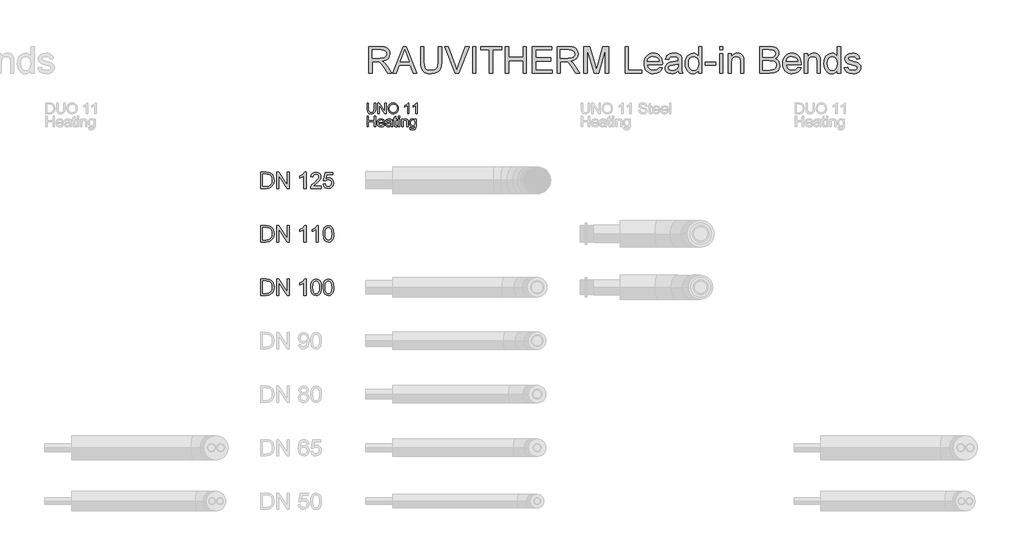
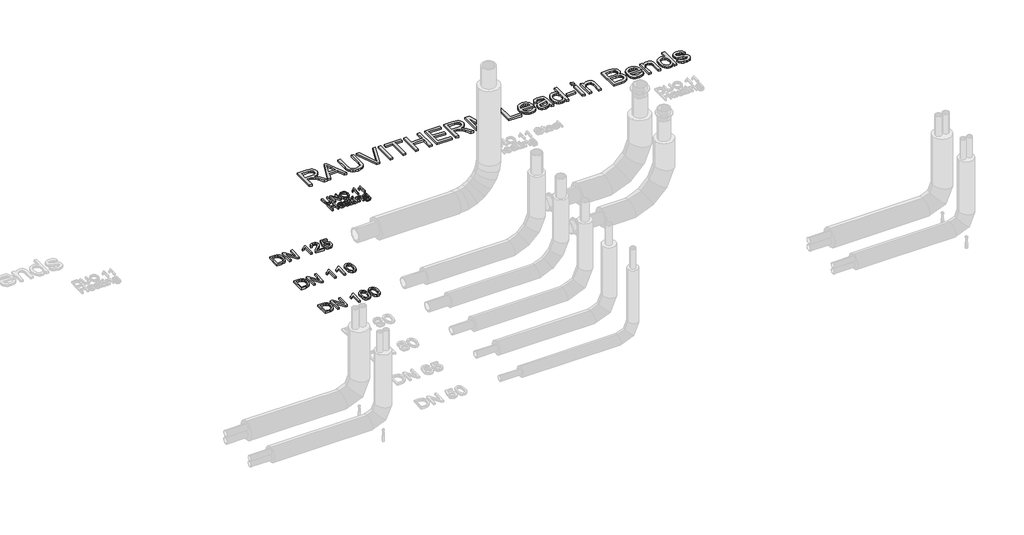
# One storey, part 42 of 44: 5 proxies.
"""IFC4 building model written with IfcOpenShell, lengths in millimetres."""

from ifc_helpers import new_model, si_unit, origin, origin_with_axes, place, context, project, spatial, polyline, outline, extrude, element, save

model = new_model("IFC4")

# Units and contexts
model_context = context("Model", 3, world=origin())
ifc_project = project(units=[si_unit("LENGTHUNIT", "METRE", prefix="MILLI")], contexts=[model_context])

# Site, building, storey
site = spatial("IfcSite", under=ifc_project)
building = spatial("IfcBuilding", under=site)
storey = spatial("IfcBuildingStorey", under=building, Name="REHAU Starting view", Elevation=0.0)

# Proxies
placement = place(None, origin())
element("IfcBuildingElementProxy", 1, Name="100", ObjectType="100", at=placement, inside=storey, context=model_context, shape_type="SweptSolid", body=[
    extrude(outline(polyline([(41076.9118625, 6222.431128), (41089.4689012, 6222.431128), (41089.4689012, 6164.477451), (41086.0598614, 6140.4547567), (41073.7726028, 6125.9847316), (41063.5086951, 6121.8000739), (41050.4734097, 6120.405188), (41027.529836, 6125.2612303), (41019.8901532, 6131.2055902), (41014.8011189, 6139.3265853), (41010.9874089, 6164.477451), (41010.9874089, 6222.431128), (41023.5444477, 6222.431128), (41023.5444477, 6164.9189094), (41026.0215198, 6145.7767829), (41034.5318566, 6136.2976902), (41049.2961874, 6132.9622268), (41062.067824, 6134.6115644), (41070.5597667, 6139.5595772), (41075.3238385, 6149.1980855), (41076.9118625, 6164.9189094), (41076.9118625, 6222.431128)])), origin_with_axes(), (0.0, 0.0, 1.0), 20.0),
    extrude(outline(polyline([(41111.4437191, 6121.9748178), (41111.4437191, 6222.431128), (41124.8836746, 6222.431128), (41177.3681726, 6142.8459897), (41177.3681726, 6222.431128), (41189.9252114, 6222.431128), (41189.9252114, 6121.9748178), (41176.4852558, 6121.9748178), (41124.0007578, 6201.5844816), (41124.0007578, 6121.9748178), (41111.4437191, 6121.9748178)])), origin_with_axes(), (0.0, 0.0, 1.0), 20.0),
    extrude(outline(polyline([(41207.1911397, 6170.8785977), (41210.5388658, 6193.0925389), (41220.5820443, 6209.8986147), (41235.9165921, 6220.4752221), (41255.1384264, 6224.0007578), (41268.3147332, 6222.3452889), (41280.1298766, 6217.3788819), (41289.9400631, 6209.4510249), (41297.1014993, 6198.9112058), (41301.479295, 6186.2683279), (41302.9385603, 6172.0312947), (41301.402653, 6157.6041891), (41296.794931, 6144.7835015), (41289.369846, 6134.2252883), (41279.3818499, 6126.5856055), (41267.667874, 6121.9502924), (41255.06485, 6120.405188), (41241.6862081, 6122.1127736), (41229.8036197, 6127.2355304), (41220.0179586, 6135.3105402), (41212.9300988, 6145.8748848), (41207.1911397, 6170.8785977)]), holes=[polyline([(41219.7481785, 6170.7559704), (41222.2589731, 6155.0412778), (41229.7913569, 6143.0667189), (41241.1129253, 6135.4883498), (41254.9912736, 6132.9622268), (41269.071957, 6135.5128753), (41280.4119195, 6143.1648208), (41287.889121, 6155.5072617), (41290.3815215, 6172.1293965), (41286.1140904, 6192.8534156), (41273.6428907, 6206.575414), (41255.2120028, 6211.4437191), (41241.7046022, 6209.0984714), (41230.2205526, 6202.0627282), (41222.366272, 6189.5455433), (41219.7481785, 6170.7559704)])]), origin_with_axes(), (0.0, 0.0, 1.0), 20.0),
    extrude(outline(polyline([(41401.8252406, 6121.9748178), (41389.2682018, 6121.9748178), (41389.2682018, 6200.2601064), (41377.3733507, 6191.7865578), (41364.1541243, 6185.4467247), (41364.1541243, 6197.3170505), (41382.5604868, 6209.0647488), (41393.7318367, 6222.431128), (41401.8252406, 6222.431128), (41401.8252406, 6121.9748178)])), origin_with_axes(), (0.0, 0.0, 1.0), 20.0),
    extrude(outline(polyline([(41478.7371031, 6121.9748178), (41466.1800643, 6121.9748178), (41466.1800643, 6200.2601064), (41454.2852131, 6191.7865578), (41441.0659868, 6185.4467247), (41441.0659868, 6197.3170505), (41459.4723492, 6209.0647488), (41470.6436992, 6222.431128), (41478.7371031, 6222.431128), (41478.7371031, 6121.9748178)])), origin_with_axes(), (0.0, 0.0, 1.0), 20.0),
    extrude(outline(polyline([(41010.9874089, 6000.0), (41010.9874089, 6100.4563101), (41023.5444477, 6100.4563101), (41023.5444477, 6059.6459342), (41076.9118625, 6059.6459342), (41076.9118625, 6100.4563101), (41089.4689012, 6100.4563101), (41089.4689012, 6000.0), (41076.9118625, 6000.0), (41076.9118625, 6047.0888954), (41023.5444477, 6047.0888954), (41023.5444477, 6000.0), (41010.9874089, 6000.0)])), origin_with_axes(), (0.0, 0.0, 1.0), 20.0),
    extrude(outline(polyline([(41161.5247213, 6021.9748178), (41173.8365055, 6020.405188), (41169.4004617, 6011.1284304), (41162.321799, 6004.1938547), (41152.7599328, 5999.8712413), (41140.8742787, 5998.4303702), (41126.1406048, 6000.9166393), (41114.803708, 6008.3754468), (41107.5748268, 6020.3224146), (41105.1651997, 6036.2731647), (41107.5993522, 6052.7604095), (41114.9018098, 6065.0905877), (41126.0854225, 6072.7793214), (41140.1630402, 6075.3422326), (41153.8022651, 6072.7854527), (41164.7007692, 6065.1151131), (41171.846877, 6052.8094604), (41174.2289129, 6036.3467411), (41174.1553365, 6032.9622268), (41117.7222385, 6032.9622268), (41119.8958079, 6023.5628418), (41124.9449883, 6016.6527916), (41132.2321175, 6012.4037546), (41141.1195333, 6010.9874089), (41153.4313175, 6013.6116338), (41161.5247213, 6021.9748178)]), holes=[polyline([(41117.7222385, 6045.5192655), (41161.6718741, 6045.5192655), (41156.6441535, 6056.8990819), (41149.3233018, 6061.3136659), (41140.1139892, 6062.7851938), (41124.6506827, 6058.088567), (41119.7854433, 6052.5979283), (41117.7222385, 6045.5192655)])]), origin_with_axes(), (0.0, 0.0, 1.0), 20.0),
    extrude(outline(polyline([(41233.8748471, 6009.4177791), (41221.697953, 6000.9074423), (41208.2457347, 5998.4303702), (41197.7519008, 5999.9202922), (41190.0110505, 6004.3900585), (41185.2377816, 6011.1774813), (41183.646692, 6019.6203731), (41186.0501877, 6029.5531869), (41192.3654953, 6036.7636741), (41201.157875, 6040.8839524), (41212.0226566, 6042.7724133), (41233.8012707, 6047.0888954), (41233.8748471, 6049.8847985), (41230.4167563, 6059.1554248), (41216.5353424, 6062.7851938), (41203.8311508, 6060.3694354), (41197.7733606, 6051.7977849), (41185.2163218, 6053.3674148), (41190.6487126, 6065.6301479), (41201.5870706, 6072.8161096), (41218.1540231, 6075.3422326), (41233.372075, 6073.1104152), (41241.968251, 6067.5063461), (41245.8187492, 6058.9837466), (41246.4318858, 6047.9963376), (41246.4318858, 6032.3736156), (41247.069548, 6010.5582133), (41249.5711455, 6000.0), (41237.0141068, 6000.0), (41233.8748471, 6009.4177791)]), holes=[polyline([(41233.8748471, 6034.5318566), (41213.6168119, 6030.6813584), (41202.8133439, 6028.6457447), (41197.9205134, 6025.3348067), (41196.2037308, 6020.5032899), (41199.9438644, 6013.7097357), (41210.9190106, 6010.9874089), (41223.6232021, 6013.9917785), (41231.8147079, 6021.2635793), (41233.8012707, 6030.975664), (41233.8748471, 6034.5318566)])]), origin_with_axes(), (0.0, 0.0, 1.0), 20.0),
    extrude(outline(polyline([(41290.3815215, 6010.4723741), (41291.9511514, 5999.632118), (41282.5578978, 5998.4303702), (41272.0364727, 6000.5150348), (41266.7880229, 6005.9842138), (41265.267444, 6020.2335097), (41265.267444, 6061.215564), (41255.8496649, 6061.215564), (41255.8496649, 6073.7726028), (41265.267444, 6073.7726028), (41265.267444, 6091.7007187), (41277.8244828, 6099.082884), (41277.8244828, 6073.7726028), (41290.3815215, 6073.7726028), (41290.3815215, 6061.215564), (41277.8244828, 6061.215564), (41277.8244828, 6020.6013917), (41278.4866703, 6014.1266686), (41280.6326487, 6011.8335375), (41284.9123425, 6010.9874089), (41290.3815215, 6010.4723741)])), origin_with_axes(), (0.0, 0.0, 1.0), 20.0),
    extrude(outline(polyline([(41302.9385603, 6087.8992714), (41302.9385603, 6100.4563101), (41315.4955991, 6100.4563101), (41315.4955991, 6087.8992714), (41302.9385603, 6087.8992714)])), origin_with_axes(), (0.0, 0.0, 1.0), 20.0),
    extrude(outline(polyline([(41302.9385603, 6000.0), (41302.9385603, 6073.7726028), (41315.4955991, 6073.7726028), (41315.4955991, 6000.0), (41302.9385603, 6000.0)])), origin_with_axes(), (0.0, 0.0, 1.0), 20.0),
    extrude(outline(polyline([(41334.3311572, 6000.0), (41334.3311572, 6073.7726028), (41346.888196, 6073.7726028), (41346.888196, 6063.4719069), (41356.4899161, 6072.3746512), (41369.5987778, 6075.3422326), (41381.4568408, 6072.9509996), (41389.5502447, 6066.6724803), (41393.3149038, 6057.4386422), (41393.9770914, 6045.2985363), (41393.9770914, 6000.0), (41381.4200526, 6000.0), (41381.4200526, 6043.6062792), (41379.9730501, 6054.7163154), (41374.8594904, 6060.5901646), (41366.2387889, 6062.7851938), (41352.6148924, 6057.8555751), (41348.3198701, 6050.712533), (41346.888196, 6039.1426443), (41346.888196, 6000.0), (41334.3311572, 6000.0)])), origin_with_axes(), (0.0, 0.0, 1.0), 20.0),
    extrude(outline(polyline([(41408.10376, 5993.7214806), (41420.6607988, 5992.1518508), (41424.7320262, 5985.5299749), (41436.9211829, 5982.7340717), (41449.7725273, 5985.8978569), (41455.9038939, 5994.7760757), (41456.7622852, 6009.4177791), (41447.9208546, 6002.3544448), (41437.1419121, 6000.0), (41424.1955316, 6002.7407209), (41414.5416949, 6010.9628835), (41408.5360213, 6023.0171502), (41406.5341301, 6037.2541834), (41410.127111, 6056.7151409), (41420.5259087, 6070.4861903), (41436.5287755, 6075.3422326), (41447.7307822, 6072.5953804), (41456.7622852, 6064.3548237), (41456.7622852, 6073.7726028), (41469.319324, 6073.7726028), (41469.319324, 6010.0799667), (41465.8857587, 5985.6893904), (41455.0087144, 5974.3463622), (41436.6759283, 5970.1770329), (41424.9926092, 5971.6454952), (41415.7924937, 5976.0508821), (41409.8910533, 5983.4054563), (41408.10376, 5993.7214806)]), holes=[polyline([(41419.0911689, 6038.1125747), (41420.4308725, 6026.5948026), (41424.4499833, 6018.6761426), (41430.4924451, 6014.0868147), (41437.9022016, 6012.5570388), (41445.2567758, 6014.0776177), (41451.3298944, 6018.6393544), (41455.4041875, 6026.4568468), (41456.7622852, 6037.7446927), (41455.3643336, 6048.6309341), (41451.1704789, 6056.4698863), (41445.0084555, 6061.2063669), (41437.7059979, 6062.7851938), (41430.5353646, 6061.2308924), (41424.5235597, 6056.5679881), (41420.4492666, 6048.8455319), (41419.0911689, 6038.1125747)])]), origin_with_axes(), (0.0, 0.0, 1.0), 20.0),
])
element("IfcBuildingElementProxy", 2, Name="150", ObjectType="150", at=placement, inside=storey, context=model_context, shape_type="SweptSolid", body=[
    extrude(outline(polyline([(40016.4811134, 4425.0), (40016.4811134, 4575.6844652), (40068.4628393, 4575.6844652), (40095.3550131, 4573.5139615), (40117.5015093, 4562.735019), (40127.9217668, 4551.2571007), (40135.343786, 4536.9832793), (40139.7859611, 4520.1894663), (40141.2666861, 4501.151573), (40137.2567724, 4470.7461261), (40126.9560765, 4448.8019651), (40113.1972899, 4435.135149), (40095.1894663, 4427.575174), (40070.9644369, 4425.0), (40016.4811134, 4425.0)]), holes=[polyline([(40035.3166715, 4443.8355582), (40068.6467803, 4443.8355582), (40092.8902038, 4446.5578849), (40106.8697196, 4454.2466186), (40118.3292437, 4472.9534181), (40122.431128, 4501.4458786), (40120.4215726, 4521.9736939), (40114.3929064, 4537.1304321), (40105.4855636, 4547.5414926), (40094.8399784, 4553.8322747), (40068.1317455, 4556.8489071), (40035.3166715, 4556.8489071), (40035.3166715, 4443.8355582)])]), origin_with_axes(), (0.0, 0.0, 1.0), 20.0),
    extrude(outline(polyline([(40167.1655786, 4425.0), (40167.1655786, 4575.6844652), (40187.3255119, 4575.6844652), (40266.0522589, 4456.3067578), (40266.0522589, 4575.6844652), (40284.8878171, 4575.6844652), (40284.8878171, 4425.0), (40264.7278837, 4425.0), (40186.0011368, 4544.4144956), (40186.0011368, 4425.0), (40167.1655786, 4425.0)])), origin_with_axes(), (0.0, 0.0, 1.0), 20.0),
    extrude(outline(polyline([(40440.2811718, 4425.0), (40421.4456137, 4425.0), (40421.4456137, 4542.4279329), (40403.6033369, 4529.7176099), (40383.7744974, 4520.2078604), (40383.7744974, 4538.0133489), (40411.3840411, 4555.6348965), (40428.141066, 4575.6844652), (40440.2811718, 4575.6844652), (40440.2811718, 4425.0)])), origin_with_axes(), (0.0, 0.0, 1.0), 20.0),
    extrude(outline(polyline([(40485.0156224, 4499.128222), (40486.3997784, 4523.2474853), (40490.5522465, 4542.4831152), (40497.4316398, 4557.1294171), (40506.9965717, 4567.4806967), (40519.31602, 4573.6335231), (40534.4589626, 4575.6844652), (40556.4583059, 4570.8284229), (40571.6518323, 4556.830513), (40580.4810002, 4534.5368641), (40583.9023027, 4499.128222), (40582.5319423, 4475.1469145), (40578.420861, 4455.9572699), (40571.5828544, 4441.2971724), (40562.0317181, 4430.904506), (40549.6846787, 4424.7102929), (40534.4589626, 4422.6455552), (40514.8876404, 4426.2324047), (40500.0252078, 4436.992953), (40488.7680188, 4462.4779783), (40485.0156224, 4499.128222)]), holes=[polyline([(40503.8511806, 4499.1650102), (40506.0584726, 4469.536714), (40512.6803485, 4452.3888145), (40522.5395859, 4444.2080387), (40534.4589626, 4441.4811134), (40546.3783392, 4444.2172357), (40556.2375767, 4452.4256027), (40562.8594526, 4469.5826993), (40565.0667446, 4499.1650102), (40562.933029, 4528.1265203), (40556.5318823, 4545.407777), (40546.6910389, 4553.9886246), (40534.2382334, 4556.8489071), (40522.4476155, 4554.3289154), (40512.9746541, 4546.7689404), (40506.132049, 4528.4116288), (40503.8511806, 4499.1650102)])]), origin_with_axes(), (0.0, 0.0, 1.0), 20.0),
    extrude(outline(polyline([(40600.3834161, 4499.128222), (40601.7675721, 4523.2474853), (40605.9200402, 4542.4831152), (40612.7994335, 4557.1294171), (40622.3643653, 4567.4806967), (40634.6838137, 4573.6335231), (40649.8267563, 4575.6844652), (40671.8260996, 4570.8284229), (40687.019626, 4556.830513), (40695.8487939, 4534.5368641), (40699.2700964, 4499.128222), (40697.899736, 4475.1469145), (40693.7886547, 4455.9572699), (40686.9506481, 4441.2971724), (40677.3995118, 4430.904506), (40665.0524724, 4424.7102929), (40649.8267563, 4422.6455552), (40630.2554341, 4426.2324047), (40615.3930015, 4436.992953), (40604.1358125, 4462.4779783), (40600.3834161, 4499.128222)]), holes=[polyline([(40619.2189743, 4499.1650102), (40621.4262663, 4469.536714), (40628.0481422, 4452.3888145), (40637.9073796, 4444.2080387), (40649.8267563, 4441.4811134), (40661.7461329, 4444.2172357), (40671.6053704, 4452.4256027), (40678.2272463, 4469.5826993), (40680.4345383, 4499.1650102), (40678.3008227, 4528.1265203), (40671.899676, 4545.407777), (40662.0588326, 4553.9886246), (40649.6060271, 4556.8489071), (40637.8154091, 4554.3289154), (40628.3424478, 4546.7689404), (40621.4998427, 4528.4116288), (40619.2189743, 4499.1650102)])]), origin_with_axes(), (0.0, 0.0, 1.0), 20.0),
])
element("IfcBuildingElementProxy", 3, Name="150", ObjectType="150", at=placement, inside=storey, context=model_context, shape_type="SweptSolid", body=[
    extrude(outline(polyline([(40016.4811134, 4925.0), (40016.4811134, 5075.6844652), (40068.4628393, 5075.6844652), (40095.3550131, 5073.5139615), (40117.5015093, 5062.735019), (40127.9217668, 5051.2571007), (40135.343786, 5036.9832793), (40139.7859611, 5020.1894663), (40141.2666861, 5001.151573), (40137.2567724, 4970.7461261), (40126.9560765, 4948.8019651), (40113.1972899, 4935.135149), (40095.1894663, 4927.575174), (40070.9644369, 4925.0), (40016.4811134, 4925.0)]), holes=[polyline([(40035.3166715, 4943.8355582), (40068.6467803, 4943.8355582), (40092.8902038, 4946.5578849), (40106.8697196, 4954.2466186), (40118.3292437, 4972.9534181), (40122.431128, 5001.4458786), (40120.4215726, 5021.9736939), (40114.3929064, 5037.1304321), (40105.4855636, 5047.5414926), (40094.8399784, 5053.8322747), (40068.1317455, 5056.8489071), (40035.3166715, 5056.8489071), (40035.3166715, 4943.8355582)])]), origin_with_axes(), (0.0, 0.0, 1.0), 20.0),
    extrude(outline(polyline([(40167.1655786, 4925.0), (40167.1655786, 5075.6844652), (40187.3255119, 5075.6844652), (40266.0522589, 4956.3067578), (40266.0522589, 5075.6844652), (40284.8878171, 5075.6844652), (40284.8878171, 4925.0), (40264.7278837, 4925.0), (40186.0011368, 5044.4144956), (40186.0011368, 4925.0), (40167.1655786, 4925.0)])), origin_with_axes(), (0.0, 0.0, 1.0), 20.0),
    extrude(outline(polyline([(40440.2811718, 4925.0), (40421.4456137, 4925.0), (40421.4456137, 5042.4279329), (40403.6033369, 5029.7176099), (40383.7744974, 5020.2078604), (40383.7744974, 5038.0133489), (40411.3840411, 5055.6348965), (40428.141066, 5075.6844652), (40440.2811718, 5075.6844652), (40440.2811718, 4925.0)])), origin_with_axes(), (0.0, 0.0, 1.0), 20.0),
    extrude(outline(polyline([(40555.6489655, 4925.0), (40536.8134074, 4925.0), (40536.8134074, 5042.4279329), (40518.9711306, 5029.7176099), (40499.1422911, 5020.2078604), (40499.1422911, 5038.0133489), (40526.7518348, 5055.6348965), (40543.5088597, 5075.6844652), (40555.6489655, 5075.6844652), (40555.6489655, 4925.0)])), origin_with_axes(), (0.0, 0.0, 1.0), 20.0),
    extrude(outline(polyline([(40600.3834161, 4999.128222), (40601.7675721, 5023.2474853), (40605.9200402, 5042.4831152), (40612.7994335, 5057.1294171), (40622.3643653, 5067.4806967), (40634.6838137, 5073.6335231), (40649.8267563, 5075.6844652), (40671.8260996, 5070.8284229), (40687.019626, 5056.830513), (40695.8487939, 5034.5368641), (40699.2700964, 4999.128222), (40697.899736, 4975.1469145), (40693.7886547, 4955.9572699), (40686.9506481, 4941.2971724), (40677.3995118, 4930.904506), (40665.0524724, 4924.7102929), (40649.8267563, 4922.6455552), (40630.2554341, 4926.2324047), (40615.3930015, 4936.992953), (40604.1358125, 4962.4779783), (40600.3834161, 4999.128222)]), holes=[polyline([(40619.2189743, 4999.1650102), (40621.4262663, 4969.536714), (40628.0481422, 4952.3888145), (40637.9073796, 4944.2080387), (40649.8267563, 4941.4811134), (40661.7461329, 4944.2172357), (40671.6053704, 4952.4256027), (40678.2272463, 4969.5826993), (40680.4345383, 4999.1650102), (40678.3008227, 5028.1265203), (40671.899676, 5045.407777), (40662.0588326, 5053.9886246), (40649.6060271, 5056.8489071), (40637.8154091, 5054.3289154), (40628.3424478, 5046.7689404), (40621.4998427, 5028.4116288), (40619.2189743, 4999.1650102)])]), origin_with_axes(), (0.0, 0.0, 1.0), 20.0),
])
element("IfcBuildingElementProxy", 4, Name="150", ObjectType="150", at=placement, inside=storey, context=model_context, shape_type="SweptSolid", body=[
    extrude(outline(polyline([(40016.4811134, 5425.0), (40016.4811134, 5575.6844652), (40068.4628393, 5575.6844652), (40095.3550131, 5573.5139615), (40117.5015093, 5562.735019), (40127.9217668, 5551.2571007), (40135.343786, 5536.9832793), (40139.7859611, 5520.1894663), (40141.2666861, 5501.151573), (40137.2567724, 5470.7461261), (40126.9560765, 5448.8019651), (40113.1972899, 5435.135149), (40095.1894663, 5427.575174), (40070.9644369, 5425.0), (40016.4811134, 5425.0)]), holes=[polyline([(40035.3166715, 5443.8355582), (40068.6467803, 5443.8355582), (40092.8902038, 5446.5578849), (40106.8697196, 5454.2466186), (40118.3292437, 5472.9534181), (40122.431128, 5501.4458786), (40120.4215726, 5521.9736939), (40114.3929064, 5537.1304321), (40105.4855636, 5547.5414926), (40094.8399784, 5553.8322747), (40068.1317455, 5556.8489071), (40035.3166715, 5556.8489071), (40035.3166715, 5443.8355582)])]), origin_with_axes(), (0.0, 0.0, 1.0), 20.0),
    extrude(outline(polyline([(40167.1655786, 5425.0), (40167.1655786, 5575.6844652), (40187.3255119, 5575.6844652), (40266.0522589, 5456.3067578), (40266.0522589, 5575.6844652), (40284.8878171, 5575.6844652), (40284.8878171, 5425.0), (40264.7278837, 5425.0), (40186.0011368, 5544.4144956), (40186.0011368, 5425.0), (40167.1655786, 5425.0)])), origin_with_axes(), (0.0, 0.0, 1.0), 20.0),
    extrude(outline(polyline([(40440.2811718, 5425.0), (40421.4456137, 5425.0), (40421.4456137, 5542.4279329), (40403.6033369, 5529.7176099), (40383.7744974, 5520.2078604), (40383.7744974, 5538.0133489), (40411.3840411, 5555.6348965), (40428.141066, 5575.6844652), (40440.2811718, 5575.6844652), (40440.2811718, 5425.0)])), origin_with_axes(), (0.0, 0.0, 1.0), 20.0),
    extrude(outline(polyline([(40581.547858, 5443.8355582), (40581.547858, 5425.0), (40482.6611777, 5425.0), (40484.6845286, 5437.9862344), (40496.1256587, 5457.9806209), (40519.7068946, 5479.8144173), (40552.227663, 5511.1947515), (40558.325307, 5522.0104821), (40560.3578551, 5532.5319072), (40558.4402702, 5541.9634818), (40552.6875155, 5549.8039669), (40543.844552, 5555.087672), (40532.6563408, 5556.8489071), (40520.9071096, 5555.1290587), (40511.7790376, 5549.9695138), (40505.8883271, 5541.7749423), (40503.8511806, 5530.9500146), (40485.0156224, 5533.3044594), (40489.5819577, 5551.5238152), (40499.4549908, 5564.8319464), (40514.1196868, 5572.9713355), (40533.061011, 5575.6844652), (40552.140291, 5572.6678329), (40566.7773959, 5563.6179358), (40576.0894089, 5550.0982725), (40579.1934132, 5533.6723414), (40575.8456871, 5515.8116705), (40564.7172567, 5497.3439944), (40537.7331123, 5471.5370724), (40516.0648628, 5453.4188841), (40507.5667887, 5443.8355582), (40581.547858, 5443.8355582)])), origin_with_axes(), (0.0, 0.0, 1.0), 20.0),
    extrude(outline(polyline([(40600.3834161, 5465.0255611), (40619.2189743, 5467.3800058), (40622.677065, 5456.072233), (40628.7103298, 5447.9742306), (40637.2911773, 5443.1043927), (40648.3920165, 5441.4811134), (40661.8932857, 5443.7389891), (40672.0100406, 5450.5126164), (40678.3284139, 5461.0202459), (40680.4345383, 5474.4801284), (40678.4617711, 5487.1536631), (40672.5434695, 5496.8473537), (40662.6336482, 5503.00018), (40648.6863221, 5505.0511222), (40632.1500264, 5501.7769724), (40621.5734191, 5493.2788983), (40602.7378609, 5495.6333431), (40619.2189743, 5573.3300205), (40692.2067621, 5573.3300205), (40692.2067621, 5554.4944623), (40634.4492889, 5554.4944623), (40626.3926732, 5512.9973732), (40639.8479572, 5521.1643535), (40653.9470346, 5523.8866803), (40671.5455896, 5520.511363), (40686.1551033, 5510.3854111), (40695.9913482, 5494.9527614), (40699.2700964, 5475.6573507), (40696.3178434, 5456.8217926), (40687.4610844, 5440.7085612), (40670.5017244, 5427.1613067), (40648.3184401, 5422.6455552), (40629.8185743, 5425.5472245), (40615.0803018, 5434.2522322), (40604.9773425, 5447.7489029), (40600.3834161, 5465.0255611)])), origin_with_axes(), (0.0, 0.0, 1.0), 20.0),
])
element("IfcBuildingElementProxy", 5, Name="250", ObjectType="250", at=placement, inside=storey, context=model_context, shape_type="SweptSolid", body=[
    extrude(outline(polyline([(41027.4685223, 6500.0), (41027.4685223, 6751.1407754), (41135.6871426, 6751.1407754), (41164.7728128, 6749.4469854), (41185.9336917, 6744.3656153), (41201.4000639, 6734.9846244), (41213.402214, 6720.3919719), (41221.1047433, 6702.2967763), (41223.6722531, 6682.4081559), (41219.4186175, 6657.6680918), (41206.6577108, 6637.1586705), (41185.0063225, 6622.121494), (41154.0812423, 6613.7981638), (41171.9235191, 6600.370471), (41197.3686904, 6568.0581691), (41239.2459242, 6500.0), (41202.764293, 6500.0), (41170.0841091, 6552.0553023), (41146.4783477, 6586.5135825), (41129.8930011, 6602.7923608), (41114.9631235, 6608.7704432), (41096.7529647, 6609.8740892), (41058.8611192, 6609.8740892), (41058.8611192, 6500.0), (41027.4685223, 6500.0)]), holes=[polyline([(41058.8611192, 6641.2666861), (41129.1265803, 6641.2666861), (41164.964418, 6645.7119269), (41176.7519703, 6651.4907399), (41185.3205551, 6659.9366974), (41190.5398809, 6670.153087), (41192.2796561, 6681.2431963), (41188.961054, 6696.5562843), (41179.0052475, 6708.8956596), (41161.8757421, 6717.0350487), (41137.0360432, 6719.7481785), (41058.8611192, 6719.7481785), (41058.8611192, 6641.2666861)])]), origin_with_axes(), (0.0, 0.0, 1.0), 20.0),
    extrude(outline(polyline([(41249.3626791, 6500.0), (41349.6105227, 6751.1407754), (41376.3432811, 6751.1407754), (41476.5911248, 6500.0), (41443.4204315, 6500.0), (41414.6643222, 6578.4814923), (41311.2281679, 6578.4814923), (41282.5333723, 6500.0), (41249.3626791, 6500.0)]), holes=[polyline([(41322.7551371, 6609.8740892), (41403.1986667, 6609.8740892), (41380.573924, 6671.6169507), (41362.9769019, 6719.7481785), (41347.3419171, 6677.0125533), (41322.7551371, 6609.8740892)])]), origin_with_axes(), (0.0, 0.0, 1.0), 20.0),
    extrude(outline(polyline([(41674.9408338, 6751.1407754), (41706.3334307, 6751.1407754), (41706.3334307, 6606.2565829), (41704.2027809, 6572.3271331), (41697.8108312, 6546.1998472), (41685.8699948, 6526.0429796), (41667.0926846, 6510.0247844), (41641.4329154, 6499.5631401), (41608.844702, 6496.0759254), (41576.96926, 6499.1109518), (41551.4857676, 6508.2160312), (41532.3865607, 6523.076931), (41519.663975, 6543.3794186), (41512.5132687, 6570.6103504), (41510.1297, 6606.2565829), (41510.1297, 6751.1407754), (41541.5222969, 6751.1407754), (41541.5222969, 6607.3602289), (41543.070467, 6579.1482784), (41547.7149772, 6559.5049127), (41556.1302778, 6545.9009431), (41568.9908192, 6535.8071809), (41585.7601068, 6529.5531869), (41605.9016461, 6527.4685223), (41637.8307376, 6531.5918663), (41659.0605944, 6543.9618984), (41666.0081991, 6554.1093101), (41670.970774, 6568.0581691), (41674.9408338, 6607.3602289), (41674.9408338, 6751.1407754)])), origin_with_axes(), (0.0, 0.0, 1.0), 20.0),
    extrude(outline(polyline([(41835.460011, 6500.0), (41735.5187357, 6751.1407754), (41769.1186246, 6751.1407754), (41836.011834, 6570.2041474), (41849.5621542, 6529.4305596), (41862.9285334, 6570.2041474), (41930.0056838, 6751.1407754), (41963.6055727, 6751.1407754), (41867.8949403, 6500.0), (41835.460011, 6500.0)])), origin_with_axes(), (0.0, 0.0, 1.0), 20.0),
    extrude(outline(polyline([(41996.7149523, 6500.0), (41996.7149523, 6751.1407754), (42028.1075492, 6751.1407754), (42028.1075492, 6500.0), (41996.7149523, 6500.0)])), origin_with_axes(), (0.0, 0.0, 1.0), 20.0),
    extrude(outline(polyline([(42153.6779369, 6500.0), (42153.6779369, 6719.7481785), (42071.27237, 6719.7481785), (42071.27237, 6751.1407754), (42267.4761007, 6751.1407754), (42267.4761007, 6719.7481785), (42185.0705338, 6719.7481785), (42185.0705338, 6500.0), (42153.6779369, 6500.0)])), origin_with_axes(), (0.0, 0.0, 1.0), 20.0),
    extrude(outline(polyline([(42302.7927723, 6500.0), (42302.7927723, 6751.1407754), (42334.1853692, 6751.1407754), (42334.1853692, 6649.1148354), (42467.6039061, 6649.1148354), (42467.6039061, 6751.1407754), (42498.996503, 6751.1407754), (42498.996503, 6500.0), (42467.6039061, 6500.0), (42467.6039061, 6617.7222385), (42334.1853692, 6617.7222385), (42334.1853692, 6500.0), (42302.7927723, 6500.0)])), origin_with_axes(), (0.0, 0.0, 1.0), 20.0),
    extrude(outline(polyline([(42553.9335476, 6500.0), (42553.9335476, 6751.1407754), (42734.4409799, 6751.1407754), (42734.4409799, 6719.7481785), (42585.3261445, 6719.7481785), (42585.3261445, 6645.1907608), (42726.5928307, 6645.1907608), (42726.5928307, 6613.7981638), (42585.3261445, 6613.7981638), (42585.3261445, 6531.3925969), (42738.3650545, 6531.3925969), (42738.3650545, 6500.0), (42553.9335476, 6500.0)])), origin_with_axes(), (0.0, 0.0, 1.0), 20.0),
    extrude(outline(polyline([(42785.4539499, 6500.0), (42785.4539499, 6751.1407754), (42893.6725702, 6751.1407754), (42922.7582404, 6749.4469854), (42943.9191193, 6744.3656153), (42959.3854916, 6734.9846244), (42971.3876417, 6720.3919719), (42979.0901709, 6702.2967763), (42981.6576807, 6682.4081559), (42977.4040451, 6657.6680918), (42964.6431384, 6637.1586705), (42942.9917502, 6622.121494), (42912.0666699, 6613.7981638), (42929.9089467, 6600.370471), (42955.354118, 6568.0581691), (42997.2313518, 6500.0), (42960.7497206, 6500.0), (42928.0695367, 6552.0553023), (42904.4637754, 6586.5135825), (42887.8784287, 6602.7923608), (42872.9485511, 6608.7704432), (42854.7383923, 6609.8740892), (42816.8465468, 6609.8740892), (42816.8465468, 6500.0), (42785.4539499, 6500.0)]), holes=[polyline([(42816.8465468, 6641.2666861), (42887.1120079, 6641.2666861), (42922.9498456, 6645.7119269), (42934.7373979, 6651.4907399), (42943.3059827, 6659.9366974), (42948.5253085, 6670.153087), (42950.2650838, 6681.2431963), (42946.9464816, 6696.5562843), (42936.9906751, 6708.8956596), (42919.8611697, 6717.0350487), (42895.0214708, 6719.7481785), (42816.8465468, 6719.7481785), (42816.8465468, 6641.2666861)])]), origin_with_axes(), (0.0, 0.0, 1.0), 20.0),
    extrude(outline(polyline([(43036.5947253, 6500.0), (43036.5947253, 6751.1407754), (43090.6120649, 6751.1407754), (43141.9929169, 6574.128222), (43152.3549264, 6537.1560815), (43163.5753273, 6577.1939053), (43214.097788, 6751.1407754), (43268.1151276, 6751.1407754), (43268.1151276, 6500.0), (43236.7225307, 6500.0), (43236.7225307, 6719.7481785), (43173.6307685, 6500.0), (43131.0790844, 6500.0), (43067.9873222, 6719.7481785), (43067.9873222, 6500.0), (43036.5947253, 6500.0)])), origin_with_axes(), (0.0, 0.0, 1.0), 20.0),
    extrude(outline(polyline([(43421.1540376, 6500.0), (43421.1540376, 6751.1407754), (43452.5466345, 6751.1407754), (43452.5466345, 6531.3925969), (43578.1170222, 6531.3925969), (43578.1170222, 6500.0), (43421.1540376, 6500.0)])), origin_with_axes(), (0.0, 0.0, 1.0), 20.0),
    extrude(outline(polyline([(43738.6361994, 6554.9370446), (43769.4156597, 6551.01297), (43758.3255504, 6527.8210759), (43740.6288936, 6510.4846369), (43716.7242281, 6499.6781033), (43687.0100928, 6496.0759254), (43667.5315075, 6497.6298436), (43650.175908, 6502.2915983), (43634.9432941, 6510.0611894), (43621.833666, 6520.9386169), (43611.2915475, 6534.6211446), (43603.7614629, 6550.8060364), (43599.2434122, 6569.4932921), (43597.7373953, 6590.6829118), (43599.2587406, 6612.591051), (43603.8227766, 6631.9010237), (43611.4295033, 6648.6128297), (43622.0789206, 6662.7264692), (43635.1540599, 6673.9392058), (43650.0379523, 6681.9483034), (43666.7305978, 6686.753762), (43685.2319965, 6688.3555815), (43703.1375029, 6686.7575941), (43719.3300589, 6681.9636319), (43733.8096643, 6673.9736948), (43746.5763192, 6662.7877829), (43756.9977263, 6648.7048002), (43764.4415885, 6632.023651), (43768.9079059, 6612.7443352), (43770.3966783, 6590.8668528), (43770.2127373, 6582.4055669), (43629.1299922, 6582.4055669), (43634.5639158, 6558.9071045), (43647.1868668, 6541.6319791), (43665.4046898, 6531.0093865), (43687.6232294, 6527.4685223), (43704.3312034, 6529.1086629), (43718.4026897, 6534.0290846), (43729.8376884, 6542.5363557), (43738.6361994, 6554.9370446)]), holes=[polyline([(43629.1299922, 6613.7981638), (43739.0040814, 6613.7981638), (43734.7581101, 6630.3835105), (43726.4347799, 6642.2477048), (43708.1326507, 6653.2841647), (43685.1093691, 6656.9629846), (43663.9484902, 6654.0275929), (43646.4511028, 6645.2214176), (43634.2880043, 6631.4948207), (43629.1299922, 6613.7981638)])]), origin_with_axes(), (0.0, 0.0, 1.0), 20.0),
    extrude(outline(polyline([(43919.5115137, 6523.5444477), (43904.5126582, 6510.6839063), (43889.0692786, 6502.2686056), (43872.8288214, 6497.6240954), (43855.4387329, 6496.0759254), (43829.2041481, 6499.8007306), (43809.8520223, 6510.9751462), (43797.9188501, 6527.9437032), (43793.941126, 6549.0509327), (43795.4433108, 6562.0647583), (43799.9498653, 6573.8829674), (43815.7381343, 6591.9091851), (43837.7190835, 6602.209881), (43864.8810374, 6606.9310333), (43919.3275727, 6617.7222385), (43919.5115137, 6624.7119964), (43917.350207, 6638.722169), (43910.8662868, 6647.8885621), (43896.3656049, 6654.694379), (43876.162752, 6656.9629846), (43857.4620839, 6655.4531356), (43844.402273, 6650.9235885), (43835.4964631, 6642.5466089), (43829.2577976, 6629.4944623), (43797.8652007, 6633.4185369), (43803.3144527, 6650.5863634), (43811.4461776, 6664.0753698), (43823.0191321, 6674.3913941), (43838.7920726, 6682.0402739), (43858.0828847, 6686.7767546), (43880.2094539, 6688.3555815), (43901.4316465, 6686.9606956), (43918.2545836, 6682.7760379), (43930.9388482, 6676.483723), (43939.7450235, 6668.7658653), (43949.371269, 6647.4593664), (43950.9041106, 6619.9908441), (43950.9041106, 6580.9340389), (43952.498266, 6526.3955332), (43958.7522599, 6500.0), (43927.359663, 6500.0), (43919.5115137, 6523.5444477)]), holes=[polyline([(43919.5115137, 6586.3296415), (43868.8664257, 6576.703396), (43841.8577559, 6571.6143617), (43829.6256796, 6563.3370168), (43825.333723, 6551.2582247), (43827.6713065, 6541.923219), (43834.684057, 6534.2743392), (43846.2186904, 6529.1699765), (43862.1219225, 6527.4685223), (43878.9831806, 6529.3462533), (43893.8824014, 6534.9794464), (43905.9611936, 6543.2797839), (43914.3611658, 6553.1589483), (43918.085971, 6563.3370168), (43919.3275727, 6577.43916), (43919.5115137, 6586.3296415)])]), origin_with_axes(), (0.0, 0.0, 1.0), 20.0),
    extrude(outline(polyline([(44107.8670953, 6500.0), (44107.8670953, 6529.6145006), (44098.4746081, 6514.9413739), (44087.0970909, 6504.4605692), (44073.7345439, 6498.1720863), (44058.3869669, 6496.0759254), (44038.0921435, 6499.1109518), (44019.5141027, 6508.2160312), (44003.7871475, 6522.7550342), (43992.0455804, 6542.0918316), (43984.7339258, 6565.4446741), (43982.2967076, 6592.0318125), (43984.5423206, 6618.2893899), (43991.2791596, 6642.0024501), (44002.4995605, 6661.8220926), (44018.1958589, 6676.3994167), (44037.1801027, 6685.3665403), (44058.2643396, 6688.3555815), (44073.6234129, 6686.2172674), (44087.2043899, 6679.8023251), (44098.7160306, 6669.969146), (44107.8670953, 6657.5761213), (44107.8670953, 6751.1407754), (44139.2596922, 6751.1407754), (44139.2596922, 6500.0), (44107.8670953, 6500.0)]), holes=[polyline([(44013.6893045, 6592.1544398), (44017.2301687, 6563.7585483), (44027.8527613, 6543.5633596), (44043.2884767, 6531.4922316), (44061.2687092, 6527.4685223), (44079.2412775, 6531.3082906), (44094.2861183, 6542.8275956), (44104.471851, 6562.2410351), (44107.8670953, 6589.7632068), (44104.4105373, 6619.8528883), (44094.0408636, 6640.7148632), (44078.6128124, 6652.9009542), (44059.9811222, 6656.9629846), (44041.8169487, 6653.0619026), (44026.9330563, 6641.3586566), (44017.0002424, 6621.2554385), (44013.6893045, 6592.1544398)])]), origin_with_axes(), (0.0, 0.0, 1.0), 20.0),
    extrude(outline(polyline([(44170.6522891, 6574.5574177), (44170.6522891, 6605.9500146), (44268.7541545, 6605.9500146), (44268.7541545, 6574.5574177), (44170.6522891, 6574.5574177)])), origin_with_axes(), (0.0, 0.0, 1.0), 20.0),
    extrude(outline(polyline([(44304.070826, 6719.7481785), (44304.070826, 6751.1407754), (44335.4634229, 6751.1407754), (44335.4634229, 6719.7481785), (44304.070826, 6719.7481785)])), origin_with_axes(), (0.0, 0.0, 1.0), 20.0),
    extrude(outline(polyline([(44304.070826, 6500.0), (44304.070826, 6684.4315069), (44335.4634229, 6684.4315069), (44335.4634229, 6500.0), (44304.070826, 6500.0)])), origin_with_axes(), (0.0, 0.0, 1.0), 20.0),
    extrude(outline(polyline([(44382.5523183, 6500.0), (44382.5523183, 6684.4315069), (44413.9449152, 6684.4315069), (44413.9449152, 6658.6797673), (44424.8510836, 6671.662936), (44437.9492154, 6680.936628), (44453.2393109, 6686.5008431), (44470.7213698, 6688.3555815), (44486.1954063, 6686.8610609), (44500.3665273, 6682.3774991), (44512.1847364, 6675.4643833), (44520.600037, 6666.6812006), (44530.0116847, 6643.5966055), (44531.6671537, 6613.2463408), (44531.6671537, 6500.0), (44500.2745568, 6500.0), (44500.2745568, 6609.0156979), (44496.6570505, 6636.7907885), (44491.6523225, 6645.0604692), (44483.8731512, 6651.4754115), (44462.3213976, 6656.9629846), (44443.9349621, 6653.8819729), (44428.2616562, 6644.6389378), (44417.5241005, 6626.7813326), (44413.9449152, 6597.8566107), (44413.9449152, 6500.0), (44382.5523183, 6500.0)])), origin_with_axes(), (0.0, 0.0, 1.0), 20.0),
    extrude(outline(polyline([(44676.8579145, 6500.0), (44676.8579145, 6751.1407754), (44772.6911742, 6751.1407754), (44799.0483863, 6749.2937012), (44819.6267854, 6743.7524786), (44835.399726, 6734.379152), (44847.3405624, 6721.0357654), (44854.8591507, 6705.339467), (44857.3653468, 6688.9074045), (44855.2576895, 6673.7859217), (44848.9347177, 6659.5688154), (44838.3504461, 6647.1298054), (44823.4588895, 6637.3426115), (44841.2475168, 6628.0535912), (44854.391634, 6613.9207912), (44862.5080305, 6595.879245), (44865.213496, 6574.863986), (44863.3664218, 6557.3512702), (44857.8251993, 6541.110813), (44849.5555186, 6527.2999097), (44839.52307, 6517.0758559), (44812.2078319, 6504.3226134), (44771.9554102, 6500.0), (44676.8579145, 6500.0)]), holes=[polyline([(44708.2505114, 6649.1148354), (44765.578789, 6649.1148354), (44799.0560505, 6651.8126367), (44810.7746249, 6656.4648111), (44819.1975898, 6663.4315764), (44824.2789598, 6672.6056336), (44825.9727498, 6683.8796839), (44824.3939229, 6694.8241733), (44819.6574423, 6704.3584483), (44811.9779056, 6711.8003945), (44801.5699108, 6716.4678973), (44761.2255187, 6719.7481785), (44708.2505114, 6719.7481785), (44708.2505114, 6649.1148354)]), polyline([(44708.2505114, 6531.3925969), (44772.6298605, 6531.3925969), (44795.9290536, 6532.6188702), (44815.6413971, 6539.455344), (44828.701208, 6553.404203), (44833.8208991, 6574.5574177), (44832.3187143, 6587.6785422), (44827.8121598, 6598.9602567), (44819.941018, 6607.7817604), (44808.3450709, 6613.5222523), (44769.5641772, 6617.7222385), (44708.2505114, 6617.7222385), (44708.2505114, 6531.3925969)])]), origin_with_axes(), (0.0, 0.0, 1.0), 20.0),
    extrude(outline(polyline([(45033.5808225, 6554.9370446), (45064.3602827, 6551.01297), (45053.2701734, 6527.8210759), (45035.5735166, 6510.4846369), (45011.6688511, 6499.6781033), (44981.9547158, 6496.0759254), (44962.4761306, 6497.6298436), (44945.120531, 6502.2915983), (44929.8879172, 6510.0611894), (44916.778289, 6520.9386169), (44906.2361706, 6534.6211446), (44898.706086, 6550.8060364), (44894.1880352, 6569.4932921), (44892.6820183, 6590.6829118), (44894.2033636, 6612.591051), (44898.7673996, 6631.9010237), (44906.3741263, 6648.6128297), (44917.0235436, 6662.7264692), (44930.0986829, 6673.9392058), (44944.9825753, 6681.9483034), (44961.6752208, 6686.753762), (44980.1766195, 6688.3555815), (44998.082126, 6686.7575941), (45014.2746819, 6681.9636319), (45028.7542873, 6673.9736948), (45041.5209422, 6662.7877829), (45051.9423493, 6648.7048002), (45059.3862116, 6632.023651), (45063.8525289, 6612.7443352), (45065.3413014, 6590.8668528), (45065.1573604, 6582.4055669), (44924.0746152, 6582.4055669), (44929.5085389, 6558.9071045), (44942.1314898, 6541.6319791), (44960.3493128, 6531.0093865), (44982.5678525, 6527.4685223), (44999.2758264, 6529.1086629), (45013.3473127, 6534.0290846), (45024.7823114, 6542.5363557), (45033.5808225, 6554.9370446)]), holes=[polyline([(44924.0746152, 6613.7981638), (45033.9487044, 6613.7981638), (45029.7027331, 6630.3835105), (45021.3794029, 6642.2477048), (45003.0772737, 6653.2841647), (44980.0539922, 6656.9629846), (44958.8931132, 6654.0275929), (44941.3957258, 6645.2214176), (44929.2326274, 6631.4948207), (44924.0746152, 6613.7981638)])]), origin_with_axes(), (0.0, 0.0, 1.0), 20.0),
    extrude(outline(polyline([(45096.7338983, 6500.0), (45096.7338983, 6684.4315069), (45128.1264952, 6684.4315069), (45128.1264952, 6658.6797673), (45139.0326635, 6671.662936), (45152.1307954, 6680.936628), (45167.4208908, 6686.5008431), (45184.9029498, 6688.3555815), (45200.3769862, 6686.8610609), (45214.5481072, 6682.3774991), (45226.3663163, 6675.4643833), (45234.781617, 6666.6812006), (45244.1932647, 6643.5966055), (45245.8487337, 6613.2463408), (45245.8487337, 6500.0), (45214.4561367, 6500.0), (45214.4561367, 6609.0156979), (45210.8386305, 6636.7907885), (45205.8339025, 6645.0604692), (45198.0547311, 6651.4754115), (45176.5029776, 6656.9629846), (45158.116542, 6653.8819729), (45142.4432362, 6644.6389378), (45131.7056805, 6626.7813326), (45128.1264952, 6597.8566107), (45128.1264952, 6500.0), (45096.7338983, 6500.0)])), origin_with_axes(), (0.0, 0.0, 1.0), 20.0),
    extrude(outline(polyline([(45402.8117183, 6500.0), (45402.8117183, 6529.6145006), (45393.4192311, 6514.9413739), (45382.041714, 6504.4605692), (45368.6791669, 6498.1720863), (45353.3315899, 6496.0759254), (45333.0367665, 6499.1109518), (45314.4587258, 6508.2160312), (45298.7317705, 6522.7550342), (45286.9902035, 6542.0918316), (45279.6785488, 6565.4446741), (45277.2413306, 6592.0318125), (45279.4869436, 6618.2893899), (45286.2237826, 6642.0024501), (45297.4441835, 6661.8220926), (45313.140482, 6676.3994167), (45332.1247257, 6685.3665403), (45353.2089626, 6688.3555815), (45368.5680359, 6686.2172674), (45382.1490129, 6679.8023251), (45393.6606536, 6669.969146), (45402.8117183, 6657.5761213), (45402.8117183, 6751.1407754), (45434.2043152, 6751.1407754), (45434.2043152, 6500.0), (45402.8117183, 6500.0)]), holes=[polyline([(45308.6339275, 6592.1544398), (45312.1747917, 6563.7585483), (45322.7973843, 6543.5633596), (45338.2330997, 6531.4922316), (45356.2133322, 6527.4685223), (45374.1859005, 6531.3082906), (45389.2307413, 6542.8275956), (45399.416474, 6562.2410351), (45402.8117183, 6589.7632068), (45399.3551604, 6619.8528883), (45388.9854866, 6640.7148632), (45373.5574355, 6652.9009542), (45354.9257452, 6656.9629846), (45336.7615717, 6653.0619026), (45321.8776793, 6641.3586566), (45311.9448655, 6621.2554385), (45308.6339275, 6592.1544398)])]), origin_with_axes(), (0.0, 0.0, 1.0), 20.0),
    extrude(outline(polyline([(45469.5209867, 6554.9370446), (45500.9135837, 6558.8611192), (45505.8646622, 6545.4334264), (45515.4449225, 6535.5619262), (45529.7156782, 6529.4918733), (45548.738243, 6527.4685223), (45567.5308816, 6529.3232607), (45580.7439766, 6534.8874759), (45588.561469, 6542.9502229), (45591.1672998, 6552.300557), (45588.5461406, 6560.3019904), (45580.6826629, 6566.4027001), (45548.370361, 6575.3544953), (45501.0975247, 6590.7135686), (45489.1336956, 6598.4314263), (45480.4654761, 6608.6478159), (45475.200165, 6620.7112797), (45473.4450613, 6633.9703599), (45479.0859186, 6657.3615234), (45494.4756487, 6675.234457), (45514.433247, 6684.5234774), (45541.4419168, 6688.3555815), (45561.8746959, 6686.8150757), (45579.6403306, 6682.1935581), (45593.9264148, 6674.9432171), (45603.9205423, 6665.516241), (45610.5424182, 6653.2151868), (45614.7117475, 6637.3426115), (45583.3191506, 6633.4185369), (45579.3567549, 6643.2977013), (45571.5162699, 6650.7396475), (45559.7210534, 6655.4071503), (45543.8944634, 6656.9629846), (45525.8682457, 6655.4761282), (45513.8507672, 6651.015559), (45507.0909355, 6644.5776241), (45504.8376583, 6637.1586705), (45508.5777919, 6628.0229343), (45520.2887021, 6621.0944901), (45547.3280287, 6614.4113005), (45593.4052486, 6599.634707), (45605.5760113, 6592.568307), (45614.803718, 6582.8960762), (45620.620852, 6570.5873578), (45622.5598967, 6555.6114949), (45620.2836269, 6540.1297943), (45613.4548173, 6525.5677987), (45602.3340512, 6513.067475), (45587.1819115, 6503.7707905), (45568.8797823, 6497.9996417), (45548.3090474, 6496.0759254), (45516.6558674, 6499.7854022), (45493.5559438, 6510.9138325), (45478.1355568, 6529.3385891), (45469.5209867, 6554.9370446)])), origin_with_axes(), (0.0, 0.0, 1.0), 20.0),
])

save(model, "model.ifc")
